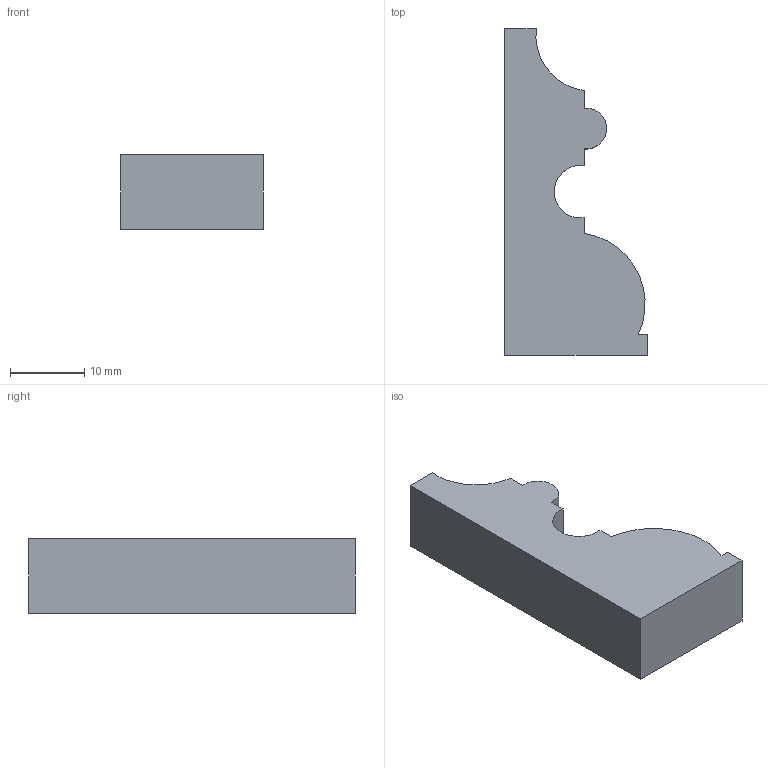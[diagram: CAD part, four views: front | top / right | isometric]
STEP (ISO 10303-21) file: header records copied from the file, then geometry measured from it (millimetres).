
FILE_DESCRIPTION (( 'STEP AP203' ), '1' );
FILE_NAME ('AB003.STEP', '2024-02-16T17:20:11', ( '' ), ( '' ), 'SwSTEP 2.0', 'SolidWorks 2020', '' );
FILE_SCHEMA (( 'CONFIG_CONTROL_DESIGN' ));
Length unit declared in the file: millimetre
Products named in the file (1): AB003
Bounding box: 19.3 x 44.13 x 10 mm (x, y, z)
Volume: 5378.3 mm3; surface area: 2371.8 mm2
Topology: 1 solids, 1 shells, 14 faces, 36 edges, 24 vertices
Faces by surface type: plane 10, cylinder 4
Entity records: 505 total; most frequent: CARTESIAN_POINT 75, DIRECTION 74, ORIENTED_EDGE 72, EDGE_CURVE 36, LINE 28, VECTOR 28, VERTEX_POINT 24, AXIS2_PLACEMENT_3D 23
